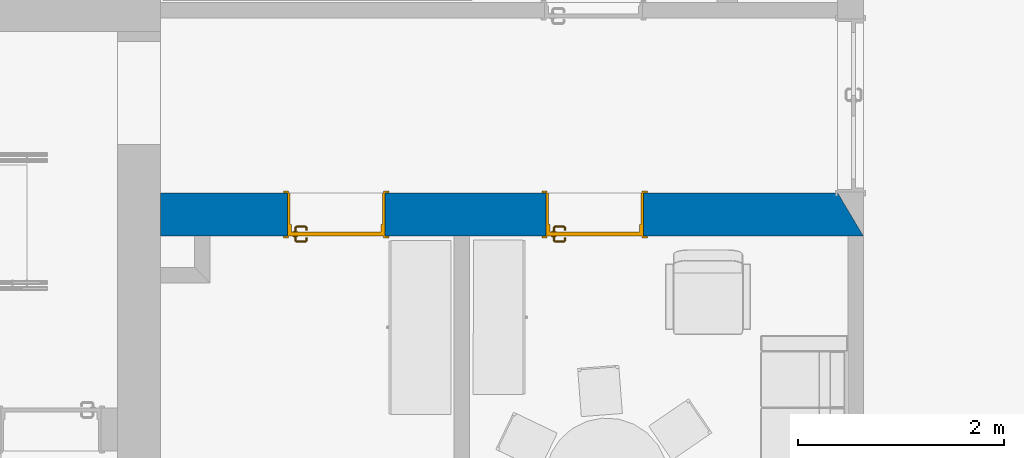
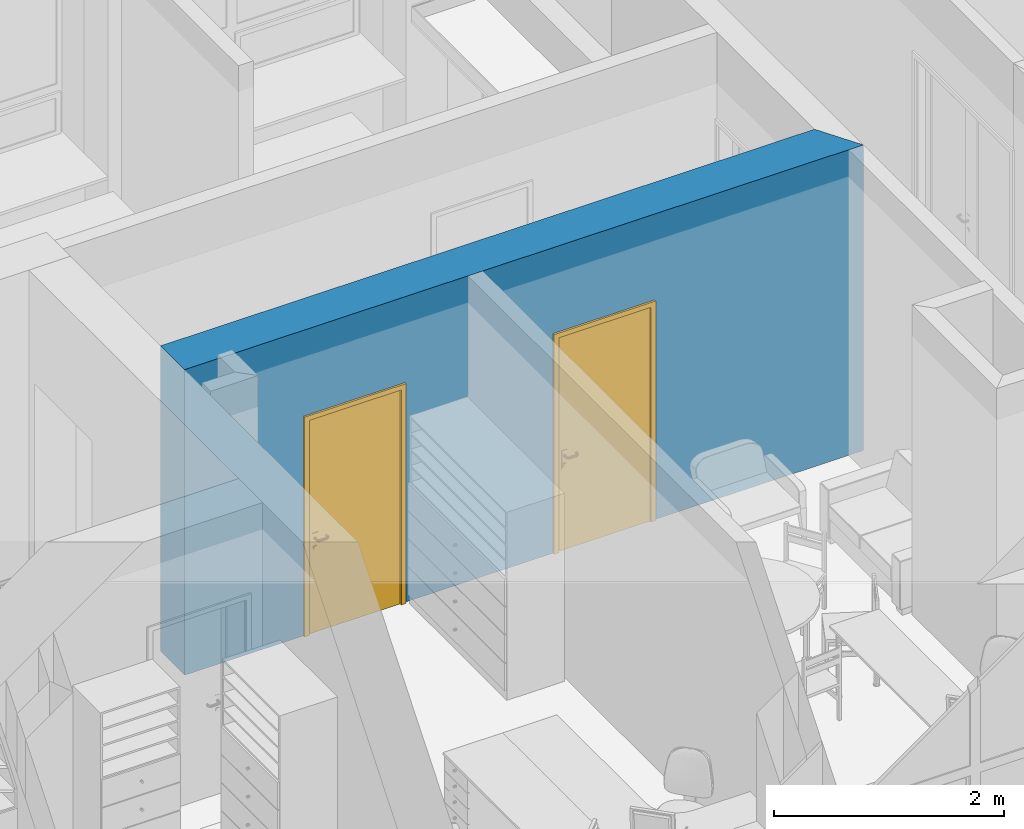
# One storey, part 13 of 194: 2 doors, 1 wall, 2 openings.
"""IFC2X3 building model written with IfcOpenShell, lengths in millimetres."""

from ifc_helpers import new_model, entity, si_unit, converted_unit, derived_unit, money_unit, direction, frame, origin_with_axes, origin_2d_with_axis, place, context, subcontext, project, spatial, polyline, rectangle, outline, extrude, open_shell, faceted_brep, surface_model, source, transform, mapped, material, layer, layer_set, layer_usage, type_object, element, fill, save


model = new_model("IFC2X3")

# Units and contexts
model_context = context("Model", 3, precision=1e-05, world=origin_with_axes(), true_north=direction((0.0, 1.0)))
body_context = subcontext(model_context, "Body", "Model", "MODEL_VIEW")
ifc_project = project(units=[si_unit("LENGTHUNIT", "METRE", prefix="MILLI"), si_unit("AREAUNIT", "SQUARE_METRE"), si_unit("VOLUMEUNIT", "CUBIC_METRE"), converted_unit("PLANEANGLEUNIT", "DEGREE", entity("IfcPlaneAngleMeasure", 0.0174532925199), si_unit("PLANEANGLEUNIT", "RADIAN"), dimensions=[0, 0, 0, 0, 0, 0, 0]), si_unit("SOLIDANGLEUNIT", "STERADIAN"), money_unit("EUR"), converted_unit("TIMEUNIT", "Year", entity("IfcTimeMeasure", 31556926.0), si_unit("TIMEUNIT", "SECOND"), dimensions=[0, 0, 1, 0, 0, 0, 0]), si_unit("MASSUNIT", "GRAM", prefix="KILO"), si_unit("THERMODYNAMICTEMPERATUREUNIT", "DEGREE_CELSIUS"), si_unit("LUMINOUSINTENSITYUNIT", "LUMEN"), si_unit("ENERGYUNIT", "JOULE", prefix="MEGA"), derived_unit("THERMALCONDUCTANCEUNIT", [(si_unit("POWERUNIT", "WATT"), 1), (si_unit("LENGTHUNIT", "METRE"), -1), (si_unit("THERMODYNAMICTEMPERATUREUNIT", "KELVIN"), -1)]), derived_unit("SPECIFICHEATCAPACITYUNIT", [(si_unit("ENERGYUNIT", "JOULE"), 1), (si_unit("MASSUNIT", "GRAM", prefix="KILO"), -1), (si_unit("THERMODYNAMICTEMPERATUREUNIT", "KELVIN"), -1)]), derived_unit("MASSDENSITYUNIT", [(si_unit("MASSUNIT", "GRAM", prefix="KILO"), 1), (si_unit("VOLUMEUNIT", "CUBIC_METRE"), -1)])], contexts=[model_context])

# Site, building, storey
site_placement = place(None, origin_with_axes())
site = spatial("IfcSite", under=ifc_project, at=site_placement, Name="Site", CompositionType="ELEMENT")
building_placement = place(site_placement, origin_with_axes())
building = spatial("IfcBuilding", under=site, at=building_placement, Name="Building", CompositionType="ELEMENT")
storey_placement = place(building_placement, frame((0.0, 0.0, 3000.0), z_axis=(0.0, 0.0, 1.0), x_axis=(1.0, 0.0, 0.0)))
storey = spatial("IfcBuildingStorey", under=building, at=storey_placement, Name="2 KORRUS", CompositionType="ELEMENT", Elevation=3000.0)

# Wall, openings, doors
ifc_material = material(Name="Kivi -Ol.Olev Konstruktsioon")
ifc_layer = layer(ifc_material, 420.0, ventilated="UNKNOWN")
ifc_layer_set = layer_set([ifc_layer], Name="ol.olev ss 420")
ifc_layer_usage = layer_usage(ifc_layer_set, "AXIS2", "POSITIVE", -420.0)
wall_type = type_object("IfcWallType", Name="SW - 022", PredefinedType="NOTDEFINED")
wall_placement = place(storey_placement, frame((30735.3687563, 41101.6242698, 0.0), z_axis=(0.0, 0.0, 1.0), x_axis=(1.0, 0.0, 0.0)))
wall = element("IfcWallStandardCase", 1, at=wall_placement, inside=storey, type_object=wall_type, material=ifc_layer_usage, Name="ol.olev ss 420", context=body_context, shape_type="SweptSolid", body=[
    extrude(outline(polyline([(420.0, -420.0), (7248.4832578, -420.0), (6998.4832578, 0.0), (420.0, 0.0), (420.0, -420.0)])), origin_with_axes(), (0.0, 0.0, 1.0), 3250.0),
])
opening_1_placement = place(wall_placement, frame((2126.04204519, 0.0, 0.0), z_axis=(0.0, 0.0, 1.0), x_axis=(1.0, 0.0, 0.0)))
opening_1 = element("IfcOpeningElement", 2, at=opening_1_placement, cuts=wall, Name="Siseuks * Door 22", context=body_context, shape_type="SweptSolid", body=[
    extrude(rectangle(XDim=950.0, YDim=2300.0, at=origin_2d_with_axis()), frame((0.0, 420.0, 1150.0), z_axis=(0.0, 1.0, 0.0), x_axis=(1.0, 0.0, 0.0)), (0.0, 0.0, -1.0), 1260.0),
    extrude(rectangle(XDim=1024.0, YDim=2337.0, at=origin_2d_with_axis()), frame((0.0, 0.0, 1168.5), z_axis=(0.0, 1.0, 0.0), x_axis=(1.0, 0.0, 0.0)), (0.0, 0.0, 1.0), 420.0),
    extrude(rectangle(XDim=1024.0, YDim=2337.0, at=origin_2d_with_axis()), frame((0.0, -420.0, 1168.5), z_axis=(0.0, -1.0, 0.0), x_axis=(1.0, 0.0, 0.0)), (0.0, 0.0, 1.0), 420.0),
])
opening_2_placement = place(wall_placement, frame((4637.27630697, 0.0, 0.0), z_axis=(0.0, 0.0, 1.0), x_axis=(1.0, 0.0, 0.0)))
opening_2 = element("IfcOpeningElement", 3, at=opening_2_placement, cuts=wall, Name="Siseuks * Door 22", context=body_context, shape_type="SweptSolid", body=[
    extrude(rectangle(XDim=950.0, YDim=2300.0, at=origin_2d_with_axis()), frame((0.0, 420.0, 1150.0), z_axis=(0.0, 1.0, 0.0), x_axis=(1.0, 0.0, 0.0)), (0.0, 0.0, -1.0), 1260.0),
    extrude(rectangle(XDim=1024.0, YDim=2337.0, at=origin_2d_with_axis()), frame((0.0, 0.0, 1168.5), z_axis=(0.0, 1.0, 0.0), x_axis=(1.0, 0.0, 0.0)), (0.0, 0.0, 1.0), 420.0),
    extrude(rectangle(XDim=1024.0, YDim=2337.0, at=origin_2d_with_axis()), frame((0.0, -420.0, 1168.5), z_axis=(0.0, -1.0, 0.0), x_axis=(1.0, 0.0, 0.0)), (0.0, 0.0, 1.0), 420.0),
])
door_style_1 = type_object("IfcDoorStyle", Name="SU-B210   950×2\xa0300", ConstructionType="NOTDEFINED", OperationType="SINGLE_SWING_LEFT", ParameterTakesPrecedence=False, Sizeable=False)
shared_shape = source(origin_with_axes(), body_context, "Body", "SurfaceModel", [
    faceted_brep([(475.0, -115.0, 0.0), (475.0, -420.0, 0.0), (450.0, -420.0, 0.0), (450.0, -115.0, 0.0), (475.0, -115.0, 2300.0), (475.0, -420.0, 2300.0), (450.0, -420.0, 2275.0), (450.0, -115.0, 2275.0)], [[[0, 1, 2, 3]], [[4, 5, 1, 0]], [[1, 5, 6, 2]], [[3, 2, 6, 7]], [[0, 3, 7, 4]], [[7, 6, 5, 4]]]),
    faceted_brep([(-475.0, -115.0, 2300.0), (-475.0, -420.0, 2300.0), (-450.0, -420.0, 2275.0), (-450.0, -115.0, 2275.0), (-475.0, -115.0, 0.0), (-475.0, -420.0, 0.0), (-450.0, -420.0, 0.0), (-450.0, -115.0, 0.0)], [[[0, 1, 2, 3]], [[4, 5, 1, 0]], [[1, 5, 6, 2]], [[3, 2, 6, 7]], [[0, 3, 7, 4]], [[7, 6, 5, 4]]]),
    faceted_brep([(450.0, -115.0, 2275.0), (450.0, -420.0, 2275.0), (-450.0, -420.0, 2275.0), (-450.0, -115.0, 2275.0), (475.0, -115.0, 2300.0), (475.0, -420.0, 2300.0), (-475.0, -420.0, 2300.0), (-475.0, -115.0, 2300.0)], [[[0, 1, 2, 3]], [[4, 5, 1, 0]], [[1, 5, 6, 2]], [[3, 2, 6, 7]], [[0, 3, 7, 4]], [[7, 6, 5, 4]]]),
    faceted_brep([(512.0, -439.0, 0.0), (462.0, -439.0, 0.0), (462.0, -420.0, 0.0), (512.0, -420.0, 0.0), (512.0, -439.0, 2337.0), (462.0, -439.0, 2287.0), (462.0, -420.0, 2287.0), (512.0, -420.0, 2337.0)], [[[0, 1, 2, 3]], [[0, 4, 5, 1]], [[1, 5, 6, 2]], [[3, 2, 6, 7]], [[4, 0, 3, 7]], [[5, 4, 7, 6]]]),
    faceted_brep([(-512.0, -439.0, 2337.0), (-462.0, -439.0, 2287.0), (-462.0, -420.0, 2287.0), (-512.0, -420.0, 2337.0), (-512.0, -439.0, 0.0), (-462.0, -439.0, 0.0), (-462.0, -420.0, 0.0), (-512.0, -420.0, 0.0)], [[[0, 1, 2, 3]], [[0, 4, 5, 1]], [[1, 5, 6, 2]], [[3, 2, 6, 7]], [[4, 0, 3, 7]], [[5, 4, 7, 6]]]),
    faceted_brep([(512.0, -439.0, 2337.0), (462.0, -439.0, 2287.0), (462.0, -420.0, 2287.0), (512.0, -420.0, 2337.0), (-512.0, -439.0, 2337.0), (-462.0, -439.0, 2287.0), (-462.0, -420.0, 2287.0), (-512.0, -420.0, 2337.0)], [[[0, 1, 2, 3]], [[0, 4, 5, 1]], [[1, 5, 6, 2]], [[3, 2, 6, 7]], [[4, 0, 3, 7]], [[5, 4, 7, 6]]]),
    faceted_brep([(512.0, 19.0, 0.0), (512.0, 0.0, 0.0), (462.0, 0.0, 0.0), (462.0, 19.0, 0.0), (512.0, 19.0, 2337.0), (512.0, 0.0, 2337.0), (462.0, 0.0, 2287.0), (462.0, 19.0, 2287.0)], [[[0, 1, 2, 3]], [[4, 5, 1, 0]], [[1, 5, 6, 2]], [[3, 2, 6, 7]], [[0, 3, 7, 4]], [[7, 6, 5, 4]]]),
    faceted_brep([(-512.0, 19.0, 2337.0), (-512.0, 0.0, 2337.0), (-462.0, 0.0, 2287.0), (-462.0, 19.0, 2287.0), (-512.0, 19.0, 0.0), (-512.0, 0.0, 0.0), (-462.0, 0.0, 0.0), (-462.0, 19.0, 0.0)], [[[0, 1, 2, 3]], [[4, 5, 1, 0]], [[1, 5, 6, 2]], [[3, 2, 6, 7]], [[0, 3, 7, 4]], [[7, 6, 5, 4]]]),
    faceted_brep([(512.0, 19.0, 2337.0), (512.0, 0.0, 2337.0), (462.0, 0.0, 2287.0), (462.0, 19.0, 2287.0), (-512.0, 19.0, 2337.0), (-512.0, 0.0, 2337.0), (-462.0, 0.0, 2287.0), (-462.0, 19.0, 2287.0)], [[[0, 1, 2, 3]], [[4, 5, 1, 0]], [[1, 5, 6, 2]], [[3, 2, 6, 7]], [[0, 3, 7, 4]], [[7, 6, 5, 4]]]),
    faceted_brep([(435.0, -40.0, 0.0), (435.0, -115.0, 0.0), (435.0, -115.0, 2260.0), (435.0, -40.0, 2260.0), (447.0, -40.0, 0.0), (447.0, 0.0, 0.0), (475.0, 0.0, 0.0), (475.0, -115.0, 0.0), (475.0, -115.0, 2260.0), (447.0, -40.0, 2260.0), (475.0, 0.0, 2260.0), (447.0, 0.0, 2260.0)], [[[0, 1, 2, 3]], [[4, 5, 6, 7, 1, 0]], [[1, 7, 8, 2]], [[9, 3, 2, 8, 10, 11]], [[9, 4, 0, 3]], [[11, 5, 4, 9]], [[11, 10, 6, 5]], [[6, 10, 8, 7]]]),
    faceted_brep([(-447.0, -40.0, 2260.0), (-447.0, 0.0, 2260.0), (-475.0, 0.0, 2260.0), (-475.0, -115.0, 2260.0), (-435.0, -115.0, 2260.0), (-435.0, -40.0, 2260.0), (-447.0, -40.0, 0.0), (-447.0, 0.0, 0.0), (-475.0, 0.0, 0.0), (-475.0, -115.0, 0.0), (-435.0, -115.0, 0.0), (-435.0, -40.0, 0.0)], [[[0, 1, 2, 3, 4, 5]], [[0, 6, 7, 1]], [[7, 8, 2, 1]], [[2, 8, 9, 3]], [[3, 9, 10, 4]], [[5, 4, 10, 11]], [[5, 11, 6, 0]], [[6, 11, 10, 9, 8, 7]]]),
    faceted_brep([(447.0, 0.0, 2272.0), (-447.0, 0.0, 2272.0), (-447.0, 0.0, 2260.0), (-475.0, 0.0, 2260.0), (-475.0, 0.0, 2300.0), (475.0, 0.0, 2300.0), (475.0, 0.0, 2260.0), (447.0, 0.0, 2260.0), (447.0, -40.0, 2272.0), (-447.0, -40.0, 2272.0), (-447.0, -40.0, 2260.0), (-435.0, -40.0, 2260.0), (-435.0, -115.0, 2260.0), (-475.0, -115.0, 2260.0), (-475.0, -115.0, 2300.0), (475.0, -115.0, 2300.0), (475.0, -115.0, 2260.0), (447.0, -40.0, 2260.0), (435.0, -115.0, 2260.0), (435.0, -40.0, 2260.0)], [[[0, 1, 2, 3, 4, 5, 6, 7]], [[0, 8, 9, 1]], [[1, 9, 10, 2]], [[10, 11, 12, 13, 3, 2]], [[4, 3, 13, 14]], [[5, 4, 14, 15]], [[6, 5, 15, 16]], [[17, 7, 6, 16, 18, 19]], [[7, 17, 8, 0]], [[10, 9, 8, 17, 19, 11]], [[19, 18, 12, 11]], [[12, 18, 16, 15, 14, 13]]]),
    faceted_brep([(425.5, -40.0, 1060.0), (368.5, -40.0, 1060.0), (368.5, -43.0, 1060.0), (425.5, -43.0, 1060.0), (425.5, -40.0, 870.0), (368.5, -40.0, 870.0), (368.5, -43.0, 870.0), (425.5, -43.0, 870.0)], [[[0, 1, 2, 3]], [[0, 4, 5, 1]], [[1, 5, 6, 2]], [[3, 2, 6, 7]], [[4, 0, 3, 7]], [[5, 4, 7, 6]]]),
    surface_model("IfcShellBasedSurfaceModel", [(387.0, -53.0, 1000.0), (389.928932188, -53.0, 992.928932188), (389.928932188, -72.303560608, 992.928932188), (387.0, -72.0150859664, 1000.0), (397.0, -53.0, 990.0), (397.0, -73.0, 990.0), (388.816790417, -77.8946748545, 992.928932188), (386.057796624, -76.751862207, 1000.0), (389.928932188, -53.0, 1007.07106781), (389.928932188, -72.303560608, 1007.07106781), (404.071067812, -53.0, 992.928932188), (404.071067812, -73.696439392, 992.928932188), (395.47759065, -80.6536686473, 990.0), (386.044179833, -82.0441798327, 992.928932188), (383.932537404, -79.9325374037, 1000.0), (388.816790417, -77.8946748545, 1007.07106781), (397.0, -53.0, 1010.0), (397.0, -73.0, 1010.0), (407.0, -53.0, 1000.0), (407.0, -73.9849140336, 1000.0), (402.138390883, -83.4126624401, 992.928932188), (391.142135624, -87.1421356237, 990.0), (381.894674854, -84.8167904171, 992.928932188), (380.751862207, -82.0577966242, 1000.0), (386.044179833, -82.0441798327, 1007.07106781), (395.47759065, -80.6536686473, 1010.0), (404.071067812, -53.0, 1007.07106781), (404.071067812, -73.696439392, 1007.07106781), (404.897384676, -84.5554750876, 1000.0), (396.240091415, -92.2400914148, 992.928932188), (384.653668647, -91.4775906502, 990.0), (376.303560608, -85.9289321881, 992.928932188), (376.015085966, -83.0, 1000.0), (381.894674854, -84.8167904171, 1007.07106781), (391.142135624, -87.1421356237, 1010.0), (402.138390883, -83.4126624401, 1007.07106781), (398.351733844, -94.3517338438, 1000.0), (387.41266244, -98.1383908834, 992.928932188), (377.0, -93.0, 990.0), (307.696439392, -85.9289321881, 992.928932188), (307.984914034, -83.0, 1000.0), (376.303560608, -85.9289321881, 1007.07106781), (384.653668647, -91.4775906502, 1010.0), (396.240091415, -92.2400914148, 1007.07106781), (388.555475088, -100.897384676, 1000.0), (377.696439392, -100.071067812, 992.928932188), (307.0, -93.0, 990.0), (302.105325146, -84.8167904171, 992.928932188), (303.248137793, -82.0577966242, 1000.0), (307.696439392, -85.9289321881, 1007.07106781), (377.0, -93.0, 1010.0), (387.41266244, -98.1383908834, 1007.07106781), (377.984914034, -103.0, 1000.0), (306.303560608, -100.071067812, 992.928932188), (299.346331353, -91.4775906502, 990.0), (297.955820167, -82.0441798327, 992.928932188), (300.067462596, -79.9325374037, 1000.0), (302.105325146, -84.8167904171, 1007.07106781), (307.0, -93.0, 1010.0), (377.696439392, -100.071067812, 1007.07106781), (306.015085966, -103.0, 1000.0), (296.58733756, -98.1383908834, 992.928932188), (292.857864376, -87.1421356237, 990.0), (295.183209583, -77.8946748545, 992.928932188), (297.942203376, -76.751862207, 1000.0), (297.955820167, -82.0441798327, 1007.07106781), (299.346331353, -91.4775906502, 1010.0), (306.303560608, -100.071067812, 1007.07106781), (295.444524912, -100.897384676, 1000.0), (287.759908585, -92.2400914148, 992.928932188), (288.52240935, -80.6536686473, 990.0), (294.071067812, -72.303560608, 992.928932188), (297.0, -72.0150859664, 1000.0), (295.183209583, -77.8946748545, 1007.07106781), (292.857864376, -87.1421356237, 1010.0), (296.58733756, -98.1383908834, 1007.07106781), (285.648266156, -94.3517338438, 1000.0), (281.861609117, -83.4126624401, 992.928932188), (287.0, -73.0, 990.0), (294.071067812, -53.0, 992.928932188), (297.0, -53.0, 1000.0), (294.071067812, -72.303560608, 1007.07106781), (288.52240935, -80.6536686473, 1010.0), (287.759908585, -92.2400914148, 1007.07106781), (279.102615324, -84.5554750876, 1000.0), (279.928932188, -73.696439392, 992.928932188), (287.0, -53.0, 990.0), (279.928932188, -53.0, 992.928932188), (277.0, -53.0, 1000.0), (279.928932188, -53.0, 1007.07106781), (287.0, -53.0, 1010.0), (294.071067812, -53.0, 1007.07106781), (287.0, -73.0, 1010.0), (281.861609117, -83.4126624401, 1007.07106781), (277.0, -73.9849140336, 1000.0), (279.928932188, -73.696439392, 1007.07106781)], [open_shell([[[0, 1, 2, 3]], [[1, 4, 5, 2]], [[3, 2, 6, 7]], [[8, 0, 3, 9]], [[4, 10, 11, 5]], [[2, 5, 12, 6]], [[7, 6, 13, 14]], [[9, 3, 7, 15]], [[16, 8, 9, 17]], [[10, 18, 19, 11]], [[5, 11, 20, 12]], [[6, 12, 21, 13]], [[14, 13, 22, 23]], [[15, 7, 14, 24]], [[17, 9, 15, 25]], [[26, 16, 17, 27]], [[18, 26, 27, 19]], [[11, 19, 28, 20]], [[12, 20, 29, 21]], [[13, 21, 30, 22]], [[23, 22, 31, 32]], [[24, 14, 23, 33]], [[25, 15, 24, 34]], [[27, 17, 25, 35]], [[19, 27, 35, 28]], [[20, 28, 36, 29]], [[21, 29, 37, 30]], [[22, 30, 38, 31]], [[32, 31, 39, 40]], [[33, 23, 32, 41]], [[34, 24, 33, 42]], [[35, 25, 34, 43]], [[28, 35, 43, 36]], [[29, 36, 44, 37]], [[30, 37, 45, 38]], [[31, 38, 46, 39]], [[40, 39, 47, 48]], [[41, 32, 40, 49]], [[42, 33, 41, 50]], [[43, 34, 42, 51]], [[36, 43, 51, 44]], [[37, 44, 52, 45]], [[38, 45, 53, 46]], [[39, 46, 54, 47]], [[48, 47, 55, 56]], [[49, 40, 48, 57]], [[50, 41, 49, 58]], [[51, 42, 50, 59]], [[44, 51, 59, 52]], [[45, 52, 60, 53]], [[46, 53, 61, 54]], [[47, 54, 62, 55]], [[56, 55, 63, 64]], [[57, 48, 56, 65]], [[58, 49, 57, 66]], [[59, 50, 58, 67]], [[52, 59, 67, 60]], [[53, 60, 68, 61]], [[54, 61, 69, 62]], [[55, 62, 70, 63]], [[64, 63, 71, 72]], [[65, 56, 64, 73]], [[66, 57, 65, 74]], [[67, 58, 66, 75]], [[60, 67, 75, 68]], [[61, 68, 76, 69]], [[62, 69, 77, 70]], [[63, 70, 78, 71]], [[72, 71, 79, 80]], [[73, 64, 72, 81]], [[74, 65, 73, 82]], [[75, 66, 74, 83]], [[68, 75, 83, 76]], [[69, 76, 84, 77]], [[70, 77, 85, 78]], [[71, 78, 86, 79]], [[80, 79, 86, 87, 88, 89, 90, 91]], [[81, 72, 80, 91]], [[82, 73, 81, 92]], [[83, 74, 82, 93]], [[76, 83, 93, 84]], [[77, 84, 94, 85]], [[78, 85, 87, 86]], [[85, 94, 88, 87]], [[94, 95, 89, 88]], [[95, 92, 90, 89]], [[92, 81, 91, 90]], [[93, 82, 92, 95]], [[84, 93, 95, 94]]])]),
    faceted_brep([(386.607695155, -53.0, 994.0), (385.0, -53.0, 1000.0), (384.0, -43.0, 1000.0), (385.741669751, -43.0, 993.5), (391.0, -53.0, 989.607695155), (397.0, -53.0, 988.0), (403.0, -53.0, 989.607695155), (407.392304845, -53.0, 994.0), (409.0, -53.0, 1000.0), (407.392304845, -53.0, 1006.0), (403.0, -53.0, 1010.39230485), (397.0, -53.0, 1012.0), (391.0, -53.0, 1010.39230485), (386.607695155, -53.0, 1006.0), (385.741669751, -43.0, 1006.5), (390.5, -43.0, 1011.25833025), (397.0, -43.0, 1013.0), (403.5, -43.0, 1011.25833025), (408.258330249, -43.0, 1006.5), (410.0, -43.0, 1000.0), (408.258330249, -43.0, 993.5), (403.5, -43.0, 988.741669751), (397.0, -43.0, 987.0), (390.5, -43.0, 988.741669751)], [[[0, 1, 2, 3]], [[1, 0, 4, 5, 6, 7, 8, 9, 10, 11, 12, 13]], [[1, 13, 14, 2]], [[2, 14, 15, 16, 17, 18, 19, 20, 21, 22, 23, 3]], [[4, 0, 3, 23]], [[5, 4, 23, 22]], [[6, 5, 22, 21]], [[7, 6, 21, 20]], [[8, 7, 20, 19]], [[9, 8, 19, 18]], [[10, 9, 18, 17]], [[11, 10, 17, 16]], [[12, 11, 16, 15]], [[13, 12, 15, 14]]]),
    faceted_brep([(379.679491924, -47.0, 895.0), (377.0, -47.0, 905.0), (375.0, -43.0, 905.0), (377.947441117, -43.0, 894.0), (387.0, -47.0, 887.679491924), (397.0, -47.0, 885.0), (407.0, -47.0, 887.679491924), (414.320508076, -47.0, 895.0), (417.0, -47.0, 905.0), (414.320508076, -47.0, 915.0), (407.0, -47.0, 922.320508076), (397.0, -47.0, 925.0), (387.0, -47.0, 922.320508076), (379.679491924, -47.0, 915.0), (377.947441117, -43.0, 916.0), (386.0, -43.0, 924.052558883), (397.0, -43.0, 927.0), (408.0, -43.0, 924.052558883), (416.052558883, -43.0, 916.0), (419.0, -43.0, 905.0), (416.052558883, -43.0, 894.0), (408.0, -43.0, 885.947441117), (397.0, -43.0, 883.0), (386.0, -43.0, 885.947441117)], [[[0, 1, 2, 3]], [[1, 0, 4, 5, 6, 7, 8, 9, 10, 11, 12, 13]], [[1, 13, 14, 2]], [[2, 14, 15, 16, 17, 18, 19, 20, 21, 22, 23, 3]], [[4, 0, 3, 23]], [[5, 4, 23, 22]], [[6, 5, 22, 21]], [[7, 6, 21, 20]], [[8, 7, 20, 19]], [[9, 8, 19, 18]], [[10, 9, 18, 17]], [[11, 10, 17, 16]], [[12, 11, 16, 15]], [[13, 12, 15, 14]]]),
    faceted_brep([(392.050252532, -49.0, 909.050252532), (390.0, -49.0, 914.0), (389.0, -47.0, 914.0), (391.343145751, -47.0, 908.343145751), (397.0, -49.0, 907.0), (401.949747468, -49.0, 909.050252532), (404.0, -49.0, 914.0), (401.949747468, -49.0, 918.949747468), (397.0, -49.0, 921.0), (392.050252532, -49.0, 918.949747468), (391.343145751, -47.0, 919.656854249), (397.0, -47.0, 922.0), (402.656854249, -47.0, 919.656854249), (405.0, -47.0, 914.0), (402.656854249, -47.0, 908.343145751), (397.0, -47.0, 906.0)], [[[0, 1, 2, 3]], [[1, 0, 4, 5, 6, 7, 8, 9]], [[1, 9, 10, 2]], [[2, 10, 11, 12, 13, 14, 15, 3]], [[4, 0, 3, 15]], [[5, 4, 15, 14]], [[6, 5, 14, 13]], [[7, 6, 13, 12]], [[8, 7, 12, 11]], [[9, 8, 11, 10]]]),
    faceted_brep([(425.5, 0.0, 1060.0), (425.5, 3.0, 1060.0), (368.5, 3.0, 1060.0), (368.5, 0.0, 1060.0), (425.5, 0.0, 870.0), (425.5, 3.0, 870.0), (368.5, 3.0, 870.0), (368.5, 0.0, 870.0)], [[[0, 1, 2, 3]], [[4, 5, 1, 0]], [[1, 5, 6, 2]], [[3, 2, 6, 7]], [[0, 3, 7, 4]], [[7, 6, 5, 4]]]),
    surface_model("IfcShellBasedSurfaceModel", [(387.0, 13.0, 1000.0), (387.0, 32.0150859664, 1000.0), (389.928932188, 32.303560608, 992.928932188), (389.928932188, 13.0, 992.928932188), (389.928932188, 13.0, 1007.07106781), (389.928932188, 32.303560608, 1007.07106781), (386.057796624, 36.751862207, 1000.0), (388.816790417, 37.8946748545, 992.928932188), (397.0, 33.0, 990.0), (397.0, 13.0, 990.0), (397.0, 13.0, 1010.0), (397.0, 33.0, 1010.0), (388.816790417, 37.8946748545, 1007.07106781), (383.932537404, 39.9325374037, 1000.0), (386.044179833, 42.0441798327, 992.928932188), (395.47759065, 40.6536686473, 990.0), (404.071067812, 33.696439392, 992.928932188), (404.071067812, 13.0, 992.928932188), (404.071067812, 13.0, 1007.07106781), (404.071067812, 33.696439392, 1007.07106781), (395.47759065, 40.6536686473, 1010.0), (386.044179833, 42.0441798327, 1007.07106781), (380.751862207, 42.0577966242, 1000.0), (381.894674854, 44.8167904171, 992.928932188), (391.142135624, 47.1421356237, 990.0), (402.138390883, 43.4126624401, 992.928932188), (407.0, 33.9849140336, 1000.0), (407.0, 13.0, 1000.0), (402.138390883, 43.4126624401, 1007.07106781), (391.142135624, 47.1421356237, 1010.0), (381.894674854, 44.8167904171, 1007.07106781), (376.015085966, 43.0, 1000.0), (376.303560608, 45.9289321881, 992.928932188), (384.653668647, 51.4775906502, 990.0), (396.240091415, 52.2400914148, 992.928932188), (404.897384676, 44.5554750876, 1000.0), (396.240091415, 52.2400914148, 1007.07106781), (384.653668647, 51.4775906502, 1010.0), (376.303560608, 45.9289321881, 1007.07106781), (307.984914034, 43.0, 1000.0), (307.696439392, 45.9289321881, 992.928932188), (377.0, 53.0, 990.0), (387.41266244, 58.1383908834, 992.928932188), (398.351733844, 54.3517338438, 1000.0), (387.41266244, 58.1383908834, 1007.07106781), (377.0, 53.0, 1010.0), (307.696439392, 45.9289321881, 1007.07106781), (303.248137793, 42.0577966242, 1000.0), (302.105325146, 44.8167904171, 992.928932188), (307.0, 53.0, 990.0), (377.696439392, 60.0710678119, 992.928932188), (388.555475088, 60.8973846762, 1000.0), (377.696439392, 60.0710678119, 1007.07106781), (307.0, 53.0, 1010.0), (302.105325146, 44.8167904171, 1007.07106781), (300.067462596, 39.9325374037, 1000.0), (297.955820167, 42.0441798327, 992.928932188), (299.346331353, 51.4775906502, 990.0), (306.303560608, 60.0710678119, 992.928932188), (377.984914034, 63.0, 1000.0), (306.303560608, 60.0710678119, 1007.07106781), (299.346331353, 51.4775906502, 1010.0), (297.955820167, 42.0441798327, 1007.07106781), (297.942203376, 36.751862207, 1000.0), (295.183209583, 37.8946748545, 992.928932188), (292.857864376, 47.1421356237, 990.0), (296.58733756, 58.1383908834, 992.928932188), (306.015085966, 63.0, 1000.0), (296.58733756, 58.1383908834, 1007.07106781), (292.857864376, 47.1421356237, 1010.0), (295.183209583, 37.8946748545, 1007.07106781), (297.0, 32.0150859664, 1000.0), (294.071067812, 32.303560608, 992.928932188), (288.52240935, 40.6536686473, 990.0), (287.759908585, 52.2400914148, 992.928932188), (295.444524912, 60.8973846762, 1000.0), (287.759908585, 52.2400914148, 1007.07106781), (288.52240935, 40.6536686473, 1010.0), (294.071067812, 32.303560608, 1007.07106781), (297.0, 13.0, 1000.0), (294.071067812, 13.0, 992.928932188), (287.0, 33.0, 990.0), (281.861609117, 43.4126624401, 992.928932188), (285.648266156, 54.3517338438, 1000.0), (281.861609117, 43.4126624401, 1007.07106781), (287.0, 33.0, 1010.0), (294.071067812, 13.0, 1007.07106781), (287.0, 13.0, 1010.0), (279.928932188, 13.0, 1007.07106781), (277.0, 13.0, 1000.0), (279.928932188, 13.0, 992.928932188), (287.0, 13.0, 990.0), (279.928932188, 33.696439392, 992.928932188), (279.102615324, 44.5554750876, 1000.0), (279.928932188, 33.696439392, 1007.07106781), (277.0, 33.9849140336, 1000.0)], [open_shell([[[0, 1, 2, 3]], [[4, 5, 1, 0]], [[1, 6, 7, 2]], [[3, 2, 8, 9]], [[10, 11, 5, 4]], [[5, 12, 6, 1]], [[6, 13, 14, 7]], [[2, 7, 15, 8]], [[9, 8, 16, 17]], [[18, 19, 11, 10]], [[11, 20, 12, 5]], [[12, 21, 13, 6]], [[13, 22, 23, 14]], [[7, 14, 24, 15]], [[8, 15, 25, 16]], [[17, 16, 26, 27]], [[27, 26, 19, 18]], [[19, 28, 20, 11]], [[20, 29, 21, 12]], [[21, 30, 22, 13]], [[22, 31, 32, 23]], [[14, 23, 33, 24]], [[15, 24, 34, 25]], [[16, 25, 35, 26]], [[26, 35, 28, 19]], [[28, 36, 29, 20]], [[29, 37, 30, 21]], [[30, 38, 31, 22]], [[31, 39, 40, 32]], [[23, 32, 41, 33]], [[24, 33, 42, 34]], [[25, 34, 43, 35]], [[35, 43, 36, 28]], [[36, 44, 37, 29]], [[37, 45, 38, 30]], [[38, 46, 39, 31]], [[39, 47, 48, 40]], [[32, 40, 49, 41]], [[33, 41, 50, 42]], [[34, 42, 51, 43]], [[43, 51, 44, 36]], [[44, 52, 45, 37]], [[45, 53, 46, 38]], [[46, 54, 47, 39]], [[47, 55, 56, 48]], [[40, 48, 57, 49]], [[41, 49, 58, 50]], [[42, 50, 59, 51]], [[51, 59, 52, 44]], [[52, 60, 53, 45]], [[53, 61, 54, 46]], [[54, 62, 55, 47]], [[55, 63, 64, 56]], [[48, 56, 65, 57]], [[49, 57, 66, 58]], [[50, 58, 67, 59]], [[59, 67, 60, 52]], [[60, 68, 61, 53]], [[61, 69, 62, 54]], [[62, 70, 63, 55]], [[63, 71, 72, 64]], [[56, 64, 73, 65]], [[57, 65, 74, 66]], [[58, 66, 75, 67]], [[67, 75, 68, 60]], [[68, 76, 69, 61]], [[69, 77, 70, 62]], [[70, 78, 71, 63]], [[71, 79, 80, 72]], [[64, 72, 81, 73]], [[65, 73, 82, 74]], [[66, 74, 83, 75]], [[75, 83, 76, 68]], [[76, 84, 77, 69]], [[77, 85, 78, 70]], [[78, 86, 79, 71]], [[79, 86, 87, 88, 89, 90, 91, 80]], [[72, 80, 91, 81]], [[73, 81, 92, 82]], [[74, 82, 93, 83]], [[83, 93, 84, 76]], [[84, 94, 85, 77]], [[85, 87, 86, 78]], [[94, 88, 87, 85]], [[95, 89, 88, 94]], [[92, 90, 89, 95]], [[81, 91, 90, 92]], [[82, 92, 95, 93]], [[93, 95, 94, 84]]])]),
    faceted_brep([(386.607695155, 13.0, 994.0), (385.741669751, 3.0, 993.5), (384.0, 3.0, 1000.0), (385.0, 13.0, 1000.0), (391.0, 13.0, 989.607695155), (390.5, 3.0, 988.741669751), (397.0, 3.0, 987.0), (403.5, 3.0, 988.741669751), (408.258330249, 3.0, 993.5), (410.0, 3.0, 1000.0), (408.258330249, 3.0, 1006.5), (403.5, 3.0, 1011.25833025), (397.0, 3.0, 1013.0), (390.5, 3.0, 1011.25833025), (385.741669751, 3.0, 1006.5), (386.607695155, 13.0, 1006.0), (391.0, 13.0, 1010.39230485), (397.0, 13.0, 1012.0), (403.0, 13.0, 1010.39230485), (407.392304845, 13.0, 1006.0), (409.0, 13.0, 1000.0), (407.392304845, 13.0, 994.0), (403.0, 13.0, 989.607695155), (397.0, 13.0, 988.0)], [[[0, 1, 2, 3]], [[4, 5, 1, 0]], [[2, 1, 5, 6, 7, 8, 9, 10, 11, 12, 13, 14]], [[3, 2, 14, 15]], [[3, 15, 16, 17, 18, 19, 20, 21, 22, 23, 4, 0]], [[23, 6, 5, 4]], [[22, 7, 6, 23]], [[21, 8, 7, 22]], [[20, 9, 8, 21]], [[19, 10, 9, 20]], [[18, 11, 10, 19]], [[17, 12, 11, 18]], [[16, 13, 12, 17]], [[15, 14, 13, 16]]]),
    faceted_brep([(379.679491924, 7.0, 895.0), (377.947441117, 3.0, 894.0), (375.0, 3.0, 905.0), (377.0, 7.0, 905.0), (387.0, 7.0, 887.679491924), (386.0, 3.0, 885.947441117), (397.0, 3.0, 883.0), (408.0, 3.0, 885.947441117), (416.052558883, 3.0, 894.0), (419.0, 3.0, 905.0), (416.052558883, 3.0, 916.0), (408.0, 3.0, 924.052558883), (397.0, 3.0, 927.0), (386.0, 3.0, 924.052558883), (377.947441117, 3.0, 916.0), (379.679491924, 7.0, 915.0), (387.0, 7.0, 922.320508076), (397.0, 7.0, 925.0), (407.0, 7.0, 922.320508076), (414.320508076, 7.0, 915.0), (417.0, 7.0, 905.0), (414.320508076, 7.0, 895.0), (407.0, 7.0, 887.679491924), (397.0, 7.0, 885.0)], [[[0, 1, 2, 3]], [[4, 5, 1, 0]], [[2, 1, 5, 6, 7, 8, 9, 10, 11, 12, 13, 14]], [[3, 2, 14, 15]], [[3, 15, 16, 17, 18, 19, 20, 21, 22, 23, 4, 0]], [[23, 6, 5, 4]], [[22, 7, 6, 23]], [[21, 8, 7, 22]], [[20, 9, 8, 21]], [[19, 10, 9, 20]], [[18, 11, 10, 19]], [[17, 12, 11, 18]], [[16, 13, 12, 17]], [[15, 14, 13, 16]]]),
    faceted_brep([(392.050252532, 9.0, 909.050252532), (391.343145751, 7.0, 908.343145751), (389.0, 7.0, 914.0), (390.0, 9.0, 914.0), (397.0, 9.0, 907.0), (397.0, 7.0, 906.0), (402.656854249, 7.0, 908.343145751), (405.0, 7.0, 914.0), (402.656854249, 7.0, 919.656854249), (397.0, 7.0, 922.0), (391.343145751, 7.0, 919.656854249), (392.050252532, 9.0, 918.949747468), (397.0, 9.0, 921.0), (401.949747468, 9.0, 918.949747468), (404.0, 9.0, 914.0), (401.949747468, 9.0, 909.050252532)], [[[0, 1, 2, 3]], [[4, 5, 1, 0]], [[2, 1, 5, 6, 7, 8, 9, 10]], [[3, 2, 10, 11]], [[3, 11, 12, 13, 14, 15, 4, 0]], [[15, 6, 5, 4]], [[14, 7, 6, 15]], [[13, 8, 7, 14]], [[12, 9, 8, 13]], [[11, 10, 9, 12]]]),
    faceted_brep([(-447.0, 0.0, 0.0), (447.0, 0.0, 0.0), (447.0, -40.0, 0.0), (-447.0, -40.0, 0.0), (-447.0, 0.0, 2272.0), (447.0, 0.0, 2272.0), (447.0, -40.0, 2272.0), (-447.0, -40.0, 2272.0)], [[[0, 1, 2, 3]], [[0, 4, 5, 1]], [[1, 5, 6, 2]], [[3, 2, 6, 7]], [[4, 0, 3, 7]], [[5, 4, 7, 6]]]),
])
door_1_placement = place(opening_1_placement, frame((475.0, 0.0, 0.0), z_axis=(0.0, 0.0, 1.0), x_axis=(-1.0, 0.0, 0.0)))
door_1 = element("IfcDoor", 4, at=door_1_placement, inside=storey, type_object=door_style_1, Name="Siseuks * Door 22", OverallHeight=2300.0, OverallWidth=950.0, context=body_context, shape_type="MappedRepresentation", body=[
    mapped(shared_shape, transform((475.0, 420.0, 0.0))),
])
fill(opening_1, door_1)
door_style_2 = type_object("IfcDoorStyle", Name="SU-B211   950×2\xa0300", ConstructionType="NOTDEFINED", OperationType="SINGLE_SWING_LEFT", ParameterTakesPrecedence=False, Sizeable=False)
door_2_placement = place(opening_2_placement, frame((475.0, 0.0, 0.0), z_axis=(0.0, 0.0, 1.0), x_axis=(-1.0, 0.0, 0.0)))
door_2 = element("IfcDoor", 5, at=door_2_placement, inside=storey, type_object=door_style_2, Name="Siseuks * Door 22", OverallHeight=2300.0, OverallWidth=950.0, context=body_context, shape_type="MappedRepresentation", body=[
    mapped(shared_shape, transform((475.0, 420.0, 0.0))),
])
fill(opening_2, door_2)

save(model, "model.ifc")
